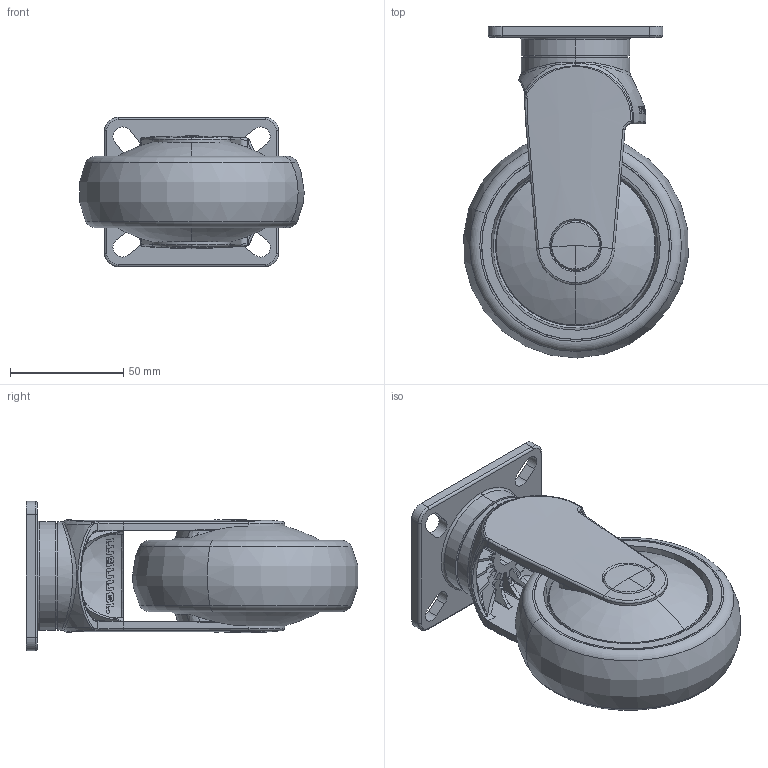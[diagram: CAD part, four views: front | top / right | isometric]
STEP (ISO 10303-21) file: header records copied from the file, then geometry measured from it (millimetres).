
FILE_DESCRIPTION (( 'STEP AP203' ), '1' );
FILE_NAME ('301041_STEP.STEP', '2011-06-22T10:32:19', ( '' ), ( '' ), 'SwSTEP 2.0', 'SolidWorks 2011', '' );
FILE_SCHEMA (( 'CONFIG_CONTROL_DESIGN' ));
Length unit declared in the file: millimetre
Products named in the file (1): 301041_STEP
Bounding box: 99.11 x 146.6 x 66 mm (x, y, z)
Surface area: 81142.4 mm2 (no closed solid volume)
Topology: 0 solids, 6 shells, 575 faces, 2049 edges, 1409 vertices
Faces by surface type: bspline 185, cylinder 185, plane 124, cone 39, torus 24, sphere 18
Entity records: 47476 total; most frequent: CARTESIAN_POINT 32616, ORIENTED_EDGE 3246, DIRECTION 2350, EDGE_CURVE 2029, VERTEX_POINT 1409, B_SPLINE_CURVE_WITH_KNOTS 956, AXIS2_PLACEMENT_3D 901, EDGE_LOOP 601
